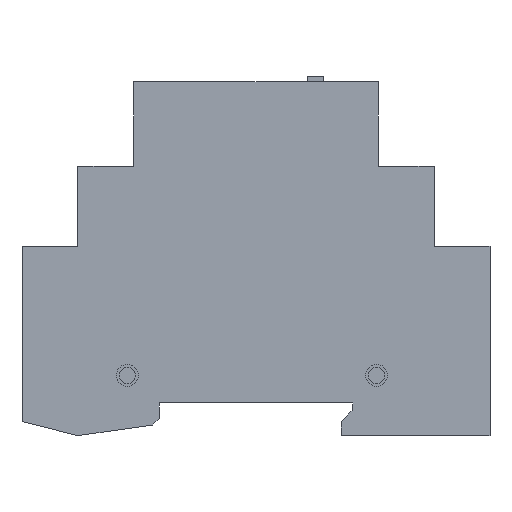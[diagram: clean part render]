
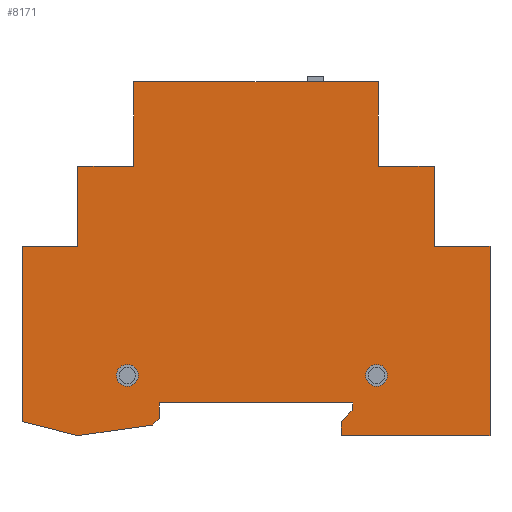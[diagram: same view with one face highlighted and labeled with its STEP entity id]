
A CAD part, left-side view. The second image highlights one B-rep face of the part: STEP entity #8171.
In plain terms, the highlighted planar face has unit normal (-1, 0, 0).
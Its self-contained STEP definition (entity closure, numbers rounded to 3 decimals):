
#334=LINE('',#11810,#1160);
#337=LINE('',#11815,#1163);
#339=LINE('',#11819,#1165);
#341=LINE('',#11823,#1167);
#343=LINE('',#11827,#1169);
#345=LINE('',#11831,#1171);
#347=LINE('',#11835,#1173);
#349=LINE('',#11839,#1175);
#351=LINE('',#11843,#1177);
#353=LINE('',#11847,#1179);
#355=LINE('',#11851,#1181);
#357=LINE('',#11855,#1183);
#359=LINE('',#11859,#1185);
#361=LINE('',#11863,#1187);
#363=LINE('',#11867,#1189);
#365=LINE('',#11871,#1191);
#367=LINE('',#11875,#1193);
#369=LINE('',#11879,#1195);
#371=LINE('',#11883,#1197);
#373=LINE('',#11887,#1199);
#375=LINE('',#11890,#1201);
#1160=VECTOR('',#9630,10.);
#1163=VECTOR('',#9635,10.);
#1165=VECTOR('',#9639,10.);
#1167=VECTOR('',#9643,10.);
#1169=VECTOR('',#9647,10.);
#1171=VECTOR('',#9651,10.);
#1173=VECTOR('',#9655,10.);
#1175=VECTOR('',#9659,10.);
#1177=VECTOR('',#9663,10.);
#1179=VECTOR('',#9667,10.);
#1181=VECTOR('',#9671,10.);
#1183=VECTOR('',#9675,10.);
#1185=VECTOR('',#9679,10.);
#1187=VECTOR('',#9683,10.);
#1189=VECTOR('',#9687,10.);
#1191=VECTOR('',#9691,10.);
#1193=VECTOR('',#9695,10.);
#1195=VECTOR('',#9699,10.);
#1197=VECTOR('',#9703,10.);
#1199=VECTOR('',#9707,10.);
#1201=VECTOR('',#9711,10.);
#1939=FACE_BOUND('',#2781,.T.);
#1940=FACE_BOUND('',#2782,.T.);
#2216=FACE_OUTER_BOUND('',#2780,.T.);
#2780=EDGE_LOOP('',(#5755,#5756,#5757,#5758,#5759,#5760,#5761,#5762,#5763,
#5764,#5765,#5766,#5767,#5768,#5769,#5770,#5771,#5772,#5773,#5774,#5775));
#2781=EDGE_LOOP('',(#5776));
#2782=EDGE_LOOP('',(#5777));
#3363=CIRCLE('',#8746,2.);
#3365=CIRCLE('',#8750,2.);
#3626=VERTEX_POINT('',#11798);
#3628=VERTEX_POINT('',#11804);
#3629=VERTEX_POINT('',#11808);
#3630=VERTEX_POINT('',#11809);
#3631=VERTEX_POINT('',#11814);
#3632=VERTEX_POINT('',#11818);
#3633=VERTEX_POINT('',#11822);
#3634=VERTEX_POINT('',#11826);
#3635=VERTEX_POINT('',#11830);
#3636=VERTEX_POINT('',#11834);
#3637=VERTEX_POINT('',#11838);
#3638=VERTEX_POINT('',#11842);
#3639=VERTEX_POINT('',#11846);
#3640=VERTEX_POINT('',#11850);
#3641=VERTEX_POINT('',#11854);
#3642=VERTEX_POINT('',#11858);
#3643=VERTEX_POINT('',#11862);
#3644=VERTEX_POINT('',#11866);
#3645=VERTEX_POINT('',#11870);
#3646=VERTEX_POINT('',#11874);
#3647=VERTEX_POINT('',#11878);
#3648=VERTEX_POINT('',#11882);
#3649=VERTEX_POINT('',#11886);
#4444=EDGE_CURVE('',#3626,#3626,#3363,.T.);
#4446=EDGE_CURVE('',#3628,#3628,#3365,.T.);
#4447=EDGE_CURVE('',#3629,#3630,#334,.T.);
#4450=EDGE_CURVE('',#3631,#3629,#337,.T.);
#4452=EDGE_CURVE('',#3632,#3631,#339,.T.);
#4454=EDGE_CURVE('',#3633,#3632,#341,.T.);
#4456=EDGE_CURVE('',#3634,#3633,#343,.T.);
#4458=EDGE_CURVE('',#3635,#3634,#345,.T.);
#4460=EDGE_CURVE('',#3636,#3635,#347,.T.);
#4462=EDGE_CURVE('',#3637,#3636,#349,.T.);
#4464=EDGE_CURVE('',#3638,#3637,#351,.T.);
#4466=EDGE_CURVE('',#3639,#3638,#353,.T.);
#4468=EDGE_CURVE('',#3640,#3639,#355,.T.);
#4470=EDGE_CURVE('',#3641,#3640,#357,.T.);
#4472=EDGE_CURVE('',#3642,#3641,#359,.T.);
#4474=EDGE_CURVE('',#3643,#3642,#361,.T.);
#4476=EDGE_CURVE('',#3644,#3643,#363,.T.);
#4478=EDGE_CURVE('',#3645,#3644,#365,.T.);
#4480=EDGE_CURVE('',#3646,#3645,#367,.T.);
#4482=EDGE_CURVE('',#3647,#3646,#369,.T.);
#4484=EDGE_CURVE('',#3648,#3647,#371,.T.);
#4486=EDGE_CURVE('',#3649,#3648,#373,.T.);
#4488=EDGE_CURVE('',#3630,#3649,#375,.T.);
#5755=ORIENTED_EDGE('',*,*,#4488,.F.);
#5756=ORIENTED_EDGE('',*,*,#4447,.F.);
#5757=ORIENTED_EDGE('',*,*,#4450,.F.);
#5758=ORIENTED_EDGE('',*,*,#4452,.F.);
#5759=ORIENTED_EDGE('',*,*,#4454,.F.);
#5760=ORIENTED_EDGE('',*,*,#4456,.F.);
#5761=ORIENTED_EDGE('',*,*,#4458,.F.);
#5762=ORIENTED_EDGE('',*,*,#4460,.F.);
#5763=ORIENTED_EDGE('',*,*,#4462,.F.);
#5764=ORIENTED_EDGE('',*,*,#4464,.F.);
#5765=ORIENTED_EDGE('',*,*,#4466,.F.);
#5766=ORIENTED_EDGE('',*,*,#4468,.F.);
#5767=ORIENTED_EDGE('',*,*,#4470,.F.);
#5768=ORIENTED_EDGE('',*,*,#4472,.F.);
#5769=ORIENTED_EDGE('',*,*,#4474,.F.);
#5770=ORIENTED_EDGE('',*,*,#4476,.F.);
#5771=ORIENTED_EDGE('',*,*,#4478,.F.);
#5772=ORIENTED_EDGE('',*,*,#4480,.F.);
#5773=ORIENTED_EDGE('',*,*,#4482,.F.);
#5774=ORIENTED_EDGE('',*,*,#4484,.F.);
#5775=ORIENTED_EDGE('',*,*,#4486,.F.);
#5776=ORIENTED_EDGE('',*,*,#4444,.T.);
#5777=ORIENTED_EDGE('',*,*,#4446,.T.);
#7744=PLANE('',#8773);
#8171=ADVANCED_FACE('',(#2216,#1939,#1940),#7744,.F.);
#8746=AXIS2_PLACEMENT_3D('',#11799,#9616,#9617);
#8750=AXIS2_PLACEMENT_3D('',#11805,#9624,#9625);
#8773=AXIS2_PLACEMENT_3D('',#11891,#9712,#9713);
#9616=DIRECTION('center_axis',(1.,0.,0.));
#9617=DIRECTION('ref_axis',(0.,0.,-1.));
#9624=DIRECTION('center_axis',(1.,0.,0.));
#9625=DIRECTION('ref_axis',(0.,0.,-1.));
#9630=DIRECTION('',(0.,0.97,0.243));
#9635=DIRECTION('',(0.,0.99,-0.138));
#9639=DIRECTION('',(0.,0.707,-0.707));
#9643=DIRECTION('',(0.,0.,-1.));
#9647=DIRECTION('',(0.,1.,0.));
#9651=DIRECTION('',(0.,0.,1.));
#9655=DIRECTION('',(0.,-1.,0.));
#9659=DIRECTION('',(0.,-0.707,0.707));
#9663=DIRECTION('',(0.,0.,1.));
#9667=DIRECTION('',(0.,1.,0.));
#9671=DIRECTION('',(0.,0.,-1.));
#9675=DIRECTION('',(0.,-1.,0.));
#9679=DIRECTION('',(0.,0.,-1.));
#9683=DIRECTION('',(0.,-1.,0.));
#9687=DIRECTION('',(0.,0.,-1.));
#9691=DIRECTION('',(0.,-1.,0.));
#9695=DIRECTION('',(0.,0.,1.));
#9699=DIRECTION('',(0.,-1.,0.));
#9703=DIRECTION('',(0.,0.,1.));
#9707=DIRECTION('',(0.,-1.,0.));
#9711=DIRECTION('',(0.,0.,1.));
#9712=DIRECTION('center_axis',(1.,0.,0.));
#9713=DIRECTION('ref_axis',(0.,0.,-1.));
#11798=CARTESIAN_POINT('',(0.,28.481,-16.033));
#11799=CARTESIAN_POINT('Origin',(0.,28.481,-18.033));
#11804=CARTESIAN_POINT('',(0.,-17.327,-16.033));
#11805=CARTESIAN_POINT('Origin',(0.,-17.327,-18.033));
#11808=CARTESIAN_POINT('',(0.,37.579,-29.095));
#11809=CARTESIAN_POINT('',(0.,47.829,-26.53));
#11810=CARTESIAN_POINT('',(0.,37.579,-29.095));
#11814=CARTESIAN_POINT('',(0.,23.84,-27.176));
#11815=CARTESIAN_POINT('',(0.,23.84,-27.176));
#11818=CARTESIAN_POINT('',(0.,22.579,-25.916));
#11819=CARTESIAN_POINT('',(0.,22.579,-25.916));
#11822=CARTESIAN_POINT('',(0.,22.579,-23.092));
#11823=CARTESIAN_POINT('',(0.,22.579,-23.092));
#11826=CARTESIAN_POINT('',(0.,-12.921,-23.092));
#11827=CARTESIAN_POINT('',(0.,-12.921,-23.092));
#11830=CARTESIAN_POINT('',(0.,-12.921,-24.527));
#11831=CARTESIAN_POINT('',(0.,-12.921,-24.527));
#11834=CARTESIAN_POINT('',(0.,-12.823,-24.527));
#11835=CARTESIAN_POINT('',(0.,-12.823,-24.527));
#11838=CARTESIAN_POINT('',(0.,-10.823,-26.527));
#11839=CARTESIAN_POINT('',(0.,-10.823,-26.527));
#11842=CARTESIAN_POINT('',(0.,-10.823,-29.095));
#11843=CARTESIAN_POINT('',(0.,-10.823,-29.095));
#11846=CARTESIAN_POINT('',(0.,-38.171,-29.095));
#11847=CARTESIAN_POINT('',(0.,-38.171,-29.095));
#11850=CARTESIAN_POINT('',(0.,-38.171,5.658));
#11851=CARTESIAN_POINT('',(0.,-38.171,5.658));
#11854=CARTESIAN_POINT('',(0.,-27.921,5.658));
#11855=CARTESIAN_POINT('',(0.,-27.921,5.658));
#11858=CARTESIAN_POINT('',(0.,-27.921,20.405));
#11859=CARTESIAN_POINT('',(0.,-27.921,20.405));
#11862=CARTESIAN_POINT('',(0.,-17.671,20.405));
#11863=CARTESIAN_POINT('',(0.,-17.671,20.405));
#11866=CARTESIAN_POINT('',(0.,-17.671,35.905));
#11867=CARTESIAN_POINT('',(0.,-17.671,35.905));
#11870=CARTESIAN_POINT('',(0.,27.329,35.905));
#11871=CARTESIAN_POINT('',(0.,27.329,35.905));
#11874=CARTESIAN_POINT('',(0.,27.329,20.405));
#11875=CARTESIAN_POINT('',(0.,27.329,20.405));
#11878=CARTESIAN_POINT('',(0.,37.579,20.405));
#11879=CARTESIAN_POINT('',(0.,37.579,20.405));
#11882=CARTESIAN_POINT('',(0.,37.579,5.658));
#11883=CARTESIAN_POINT('',(0.,37.579,5.658));
#11886=CARTESIAN_POINT('',(0.,47.829,5.658));
#11887=CARTESIAN_POINT('',(0.,47.829,5.658));
#11890=CARTESIAN_POINT('',(0.,47.829,-26.53));
#11891=CARTESIAN_POINT('Origin',(0.,4.238,0.217));
